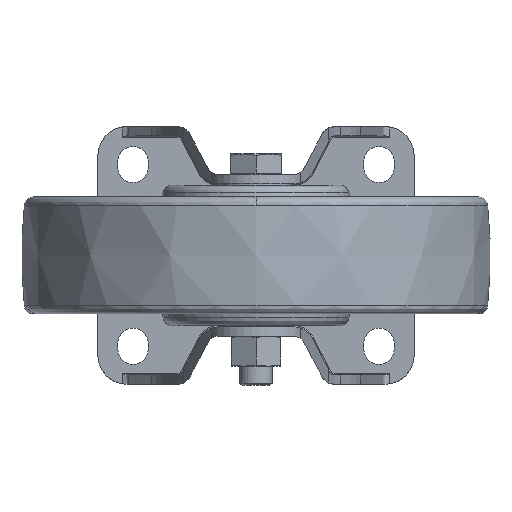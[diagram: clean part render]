
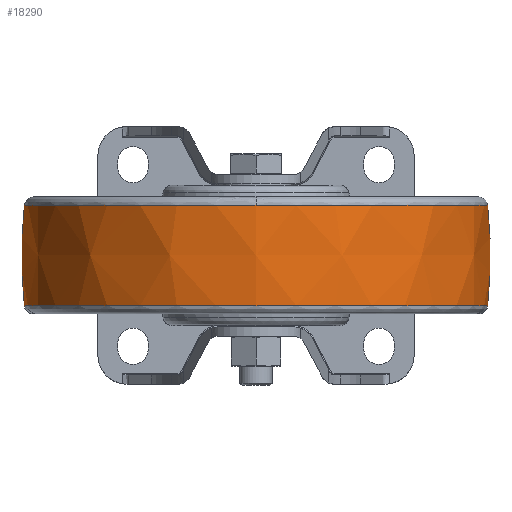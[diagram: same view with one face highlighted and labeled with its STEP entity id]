
A CAD part, front view. The second image highlights one B-rep face of the part: STEP entity #18290.
In plain terms, the highlighted free-form (B-spline) face has degree [2, 2] with [5, 9] control points.
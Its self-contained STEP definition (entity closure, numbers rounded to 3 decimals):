
#11996=CARTESIAN_POINT('',(-98.901,-150.0,21.41));
#11997=VERTEX_POINT('',#11996);
#12005=CARTESIAN_POINT('',(0.0,-248.901,21.41));
#12006=VERTEX_POINT('',#12005);
#12007=CARTESIAN_POINT('',(0.0,-150.0,21.41));
#12008=DIRECTION('',(0.0,0.0,-1.0));
#12009=DIRECTION('',(-1.0,0.0,0.0));
#12010=AXIS2_PLACEMENT_3D('',#12007,#12008,#12009);
#12011=CIRCLE('',#12010,98.901);
#12012=EDGE_CURVE('',#12006,#11997,#12011,.T.);
#12086=CARTESIAN_POINT('',(98.901,-150.0,21.41));
#12087=VERTEX_POINT('',#12086);
#12095=CARTESIAN_POINT('',(98.901,-150.0,-21.41));
#12096=VERTEX_POINT('',#12095);
#12097=CARTESIAN_POINT('',(-109.082,-150.0,0.));
#12098=DIRECTION('',(0.0,1.0,0.0));
#12099=DIRECTION('',(1.0,0.0,0.0));
#12100=AXIS2_PLACEMENT_3D('',#12097,#12098,#12099);
#12101=CIRCLE('',#12100,209.082);
#12102=EDGE_CURVE('',#12087,#12096,#12101,.T.);
#12104=CARTESIAN_POINT('',(-98.901,-150.0,-21.41));
#12105=VERTEX_POINT('',#12104);
#12113=CARTESIAN_POINT('',(109.082,-150.0,0.));
#12114=DIRECTION('',(0.0,-1.0,0.0));
#12115=DIRECTION('',(-1.0,0.0,0.0));
#12116=AXIS2_PLACEMENT_3D('',#12113,#12114,#12115);
#12117=CIRCLE('',#12116,209.082);
#12118=EDGE_CURVE('',#11997,#12105,#12117,.T.);
#18212=CARTESIAN_POINT('',(0.,-150.0,-21.41));
#18213=DIRECTION('',(0.0,0.0,1.0));
#18214=DIRECTION('',(1.0,0.0,0.0));
#18215=AXIS2_PLACEMENT_3D('',#18212,#18213,#18214);
#18216=CIRCLE('',#18215,98.901);
#18217=EDGE_CURVE('',#12105,#12096,#18216,.T.);
#18224=CARTESIAN_POINT('',(0.,-150.0,-178.372));
#18225=CARTESIAN_POINT('',(0.,-50.,-117.217));
#18226=CARTESIAN_POINT('',(0.,-50.,0.));
#18227=CARTESIAN_POINT('',(0.,-50.,117.217));
#18228=CARTESIAN_POINT('',(0.,-150.,178.372));
#18229=CARTESIAN_POINT('',(0.,-150.0,-178.372));
#18230=CARTESIAN_POINT('',(100.,-50.,-117.217));
#18231=CARTESIAN_POINT('',(100.,-50.,0.));
#18232=CARTESIAN_POINT('',(100.,-50.,117.217));
#18233=CARTESIAN_POINT('',(0.,-150.0,178.372));
#18234=CARTESIAN_POINT('',(0.,-150.0,-178.372));
#18235=CARTESIAN_POINT('',(100.,-150.0,-117.217));
#18236=CARTESIAN_POINT('',(100.,-150.0,0.));
#18237=CARTESIAN_POINT('',(100.,-150.0,117.217));
#18238=CARTESIAN_POINT('',(0.,-150.0,178.372));
#18239=CARTESIAN_POINT('',(0.,-150.0,-178.372));
#18240=CARTESIAN_POINT('',(100.,-250.,-117.217));
#18241=CARTESIAN_POINT('',(100.,-250.,0.));
#18242=CARTESIAN_POINT('',(100.,-250.,117.217));
#18243=CARTESIAN_POINT('',(0.,-150.,178.372));
#18244=CARTESIAN_POINT('',(0.,-150.0,-178.372));
#18245=CARTESIAN_POINT('',(0.,-250.,-117.217));
#18246=CARTESIAN_POINT('',(0.,-250.,0.));
#18247=CARTESIAN_POINT('',(0.,-250.,117.217));
#18248=CARTESIAN_POINT('',(0.,-150.,178.372));
#18249=CARTESIAN_POINT('',(0.,-150.0,-178.372));
#18250=CARTESIAN_POINT('',(-100.,-250.,-117.217));
#18251=CARTESIAN_POINT('',(-100.,-250.,0.));
#18252=CARTESIAN_POINT('',(-100.,-250.,117.217));
#18253=CARTESIAN_POINT('',(0.,-150.0,178.372));
#18254=CARTESIAN_POINT('',(0.,-150.0,-178.372));
#18255=CARTESIAN_POINT('',(-100.,-150.0,-117.217));
#18256=CARTESIAN_POINT('',(-100.,-150.0,0.));
#18257=CARTESIAN_POINT('',(-100.,-150.0,117.217));
#18258=CARTESIAN_POINT('',(0.,-150.0,178.372));
#18259=CARTESIAN_POINT('',(0.,-150.0,-178.372));
#18260=CARTESIAN_POINT('',(-100.,-50.,-117.217));
#18261=CARTESIAN_POINT('',(-100.,-50.,0.));
#18262=CARTESIAN_POINT('',(-100.,-50.,117.217));
#18263=CARTESIAN_POINT('',(0.,-150.,178.372));
#18264=CARTESIAN_POINT('',(0.,-150.0,-178.372));
#18265=CARTESIAN_POINT('',(0.,-50.,-117.217));
#18266=CARTESIAN_POINT('',(0.,-50.,0.));
#18267=CARTESIAN_POINT('',(0.,-50.,117.217));
#18268=CARTESIAN_POINT('',(0.,-150.,178.372));
#18276=(BOUNDED_SURFACE()B_SPLINE_SURFACE(2,2,((#18224,#18229,#18234,#18239,#18244,#18249,#18254,#18259,#18264),(#18225,#18230,#18235,#18240,#18245,#18250,#18255,#18260,#18265),(#18226,#18231,#18236,#18241,#18246,#18251,#18256,#18261,#18266),(#18227,#18232,#18237,#18242,#18247,#18252,#18257,#18262,#18267),(#18228,#18233,#18238,#18243,#18248,#18253,#18258,#18263,#18268)),.UNSPECIFIED.,.F.,.T.,.U.)B_SPLINE_SURFACE_WITH_KNOTS((3,2,3),(3,2,2,2,3),(0.0,0.5,1.0),(0.0,0.25,0.5,0.75,1.0),.UNSPECIFIED.)GEOMETRIC_REPRESENTATION_ITEM()RATIONAL_B_SPLINE_SURFACE(((1.0,0.707,1.0,0.707,1.0,0.707,1.0,0.707,1.0),(0.872,0.617,0.872,0.617,0.872,0.617,0.872,0.617,0.872),(1.0,0.707,1.0,0.707,1.0,0.707,1.0,0.707,1.0),(0.872,0.617,0.872,0.617,0.872,0.617,0.872,0.617,0.872),(1.0,0.707,1.0,0.707,1.0,0.707,1.0,0.707,1.0)))REPRESENTATION_ITEM('')SURFACE());
#18277=ORIENTED_EDGE('',*,*,#12102,.F.);
#18278=CARTESIAN_POINT('',(0.0,-150.0,21.41));
#18279=DIRECTION('',(0.0,0.0,-1.0));
#18280=DIRECTION('',(-1.0,0.0,0.0));
#18281=AXIS2_PLACEMENT_3D('',#18278,#18279,#18280);
#18282=CIRCLE('',#18281,98.901);
#18283=EDGE_CURVE('',#12087,#12006,#18282,.T.);
#18284=ORIENTED_EDGE('',*,*,#18283,.T.);
#18285=ORIENTED_EDGE('',*,*,#12012,.T.);
#18286=ORIENTED_EDGE('',*,*,#12118,.T.);
#18287=ORIENTED_EDGE('',*,*,#18217,.T.);
#18288=EDGE_LOOP('',(#18277,#18284,#18285,#18286,#18287));
#18289=FACE_OUTER_BOUND('',#18288,.T.);
#18290=ADVANCED_FACE('',(#18289),#18276,.T.);
